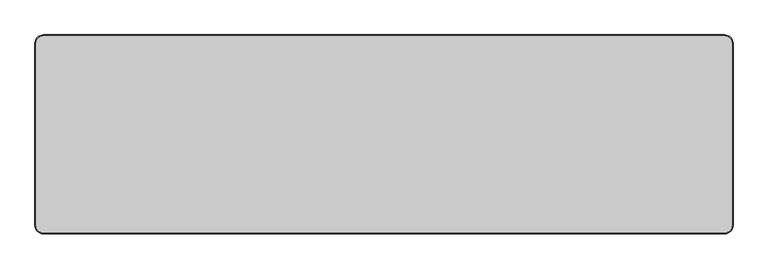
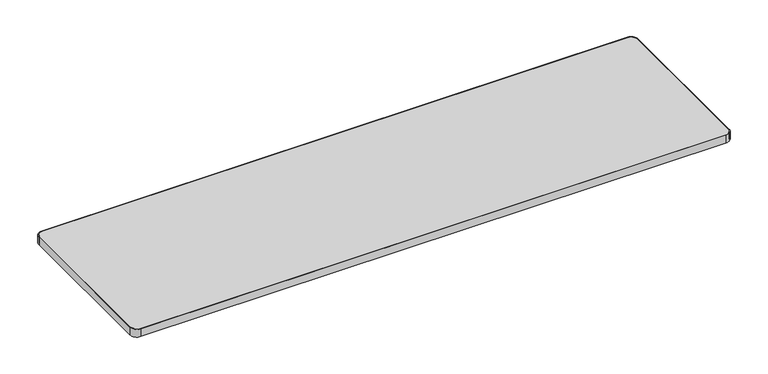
"""IFC4 building model written with IfcOpenShell, lengths in millimetres: furniture geometry, Steelcase - Groupwork - Table - Top - Rectangular : 24D x 84W - HPL."""

from ifc_helpers import new_model, si_unit, point, frame, frame_2d, origin, place, context, project, spatial, polyline, circle_curve, trimmed, segment, composite_curve, outline, extrude, source, transform, mapped, element, save


def furniture_02dcd6cb(model_context):
    return source(origin(), model_context, "Body", "SweptSolid", [
        extrude(outline(composite_curve([segment(polyline([(-1069.34, 301.8), (1012.54, 301.8)]), True, "CONTINUOUS"), segment(trimmed(circle_curve(frame_2d((1012.54, 278.94)), 22.86), [point((1012.54, 301.8))], [point((1035.4, 278.94))], False, "CARTESIAN"), True, "CONTINUOUS"), segment(polyline([(1035.4, 278.94), (1035.4, -278.94)]), True, "CONTINUOUS"), segment(trimmed(circle_curve(frame_2d((1012.54, -278.94)), 22.86), [point((1035.4, -278.94))], [point((1012.54, -301.8))], False, "CARTESIAN"), True, "CONTINUOUS"), segment(polyline([(1012.54, -301.8), (-1069.34, -301.8)]), True, "CONTINUOUS"), segment(trimmed(circle_curve(frame_2d((-1069.34, -278.94)), 22.86), [point((-1069.34, -301.8))], [point((-1092.2, -278.94))], False, "CARTESIAN"), True, "CONTINUOUS"), segment(polyline([(-1092.2, -278.94), (-1092.2, 278.94)]), True, "CONTINUOUS"), segment(trimmed(circle_curve(frame_2d((-1069.34, 278.94)), 22.86), [point((-1092.2, 278.94))], [point((-1069.34, 301.8))], False, "CARTESIAN"), True, "CONTINUOUS")], self_intersect=False)), frame((0.0, 0.0, 694.944), z_axis=(0.0, 0.0, 1.0), x_axis=(1.0, 0.0, 0.0)), (0.0, 0.0, 1.0), 28.956),
        extrude(outline(composite_curve([segment(trimmed(circle_curve(frame_2d((1012.9385373, 279.3385373)), 25.4614627), [point((1012.9385373, 304.8))], [point((1038.4, 279.3385373))], False, "CARTESIAN"), True, "CONTINUOUS"), segment(polyline([(1038.4, 279.3385373), (1038.4, -279.4211297)]), True, "CONTINUOUS"), segment(trimmed(circle_curve(frame_2d((1013.0211297, -279.4211297)), 25.3788703), [point((1038.4, -279.4211297))], [point((1013.0211297, -304.8))], False, "CARTESIAN"), True, "CONTINUOUS"), segment(polyline([(1013.0211297, -304.8), (-1069.8, -304.8)]), True, "CONTINUOUS"), segment(trimmed(circle_curve(frame_2d((-1069.8, -279.4)), 25.4), [point((-1069.8, -304.8))], [point((-1095.2, -279.4))], False, "CARTESIAN"), True, "CONTINUOUS"), segment(polyline([(-1095.2, -279.4), (-1095.2, 279.4)]), True, "CONTINUOUS"), segment(trimmed(circle_curve(frame_2d((-1069.8, 279.4)), 25.4), [point((-1095.2, 279.4))], [point((-1069.8, 304.8))], False, "CARTESIAN"), True, "CONTINUOUS"), segment(polyline([(-1069.8, 304.8), (1012.9385373, 304.8)]), True, "CONTINUOUS")], self_intersect=False), holes=[composite_curve([segment(polyline([(1012.6064662, 301.8), (-1069.34, 301.8)]), True, "CONTINUOUS"), segment(trimmed(circle_curve(frame_2d((-1069.34, 278.94)), 22.86), [point((-1069.34, 301.8))], [point((-1092.2, 278.94))], True, "CARTESIAN"), True, "CONTINUOUS"), segment(polyline([(-1092.2, 278.94), (-1092.2, -278.94)]), True, "CONTINUOUS"), segment(trimmed(circle_curve(frame_2d((-1069.34, -278.94)), 22.86), [point((-1092.2, -278.94))], [point((-1069.34, -301.8))], True, "CARTESIAN"), True, "CONTINUOUS"), segment(polyline([(-1069.34, -301.8), (1012.373488, -301.8)]), True, "CONTINUOUS"), segment(trimmed(circle_curve(frame_2d((1012.373488, -278.773488)), 23.026512), [point((1012.373488, -301.8))], [point((1035.4, -278.773488))], True, "CARTESIAN"), True, "CONTINUOUS"), segment(polyline([(1035.4, -278.773488), (1035.4, 279.0064662)]), True, "CONTINUOUS"), segment(trimmed(circle_curve(frame_2d((1012.6064662, 279.0064662)), 22.7935338), [point((1035.4, 279.0064662))], [point((1012.6064662, 301.8))], True, "CARTESIAN"), True, "CONTINUOUS")], self_intersect=False)]), frame((0.0, 0.0, 694.944), z_axis=(0.0, 0.0, 1.0), x_axis=(1.0, 0.0, 0.0)), (0.0, 0.0, 1.0), 28.956),
    ])


if __name__ == "__main__":
    model = new_model("IFC4")
    model_context = context("Model", 3, world=origin())
    ifc_project = project(units=[si_unit("LENGTHUNIT", "METRE", prefix="MILLI")], contexts=[model_context])
    site = spatial("IfcSite", under=ifc_project)
    building = spatial("IfcBuilding", under=site)
    placement = place(None, origin())
    furniture_shape = furniture_02dcd6cb(model_context)
    element("IfcFurniture", 1, ObjectType="Steelcase - Groupwork - Table - Top - Rectangular : 24D x 84W - HPL", at=placement, inside=building, context=model_context, shape_type="MappedRepresentation", body=[
        mapped(furniture_shape, transform((0.0, 0.0, 0.0), x_axis=(1.0, 0.0, 0.0), y_axis=(0.0, 1.0, 0.0), z_axis=(0.0, 0.0, 1.0))),
    ])
    save(model, "model.ifc")
